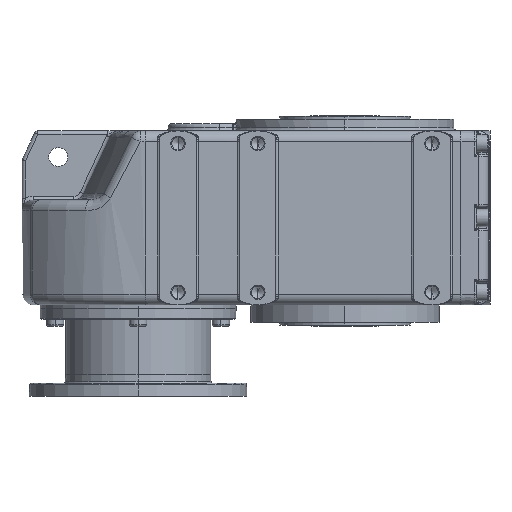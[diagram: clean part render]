
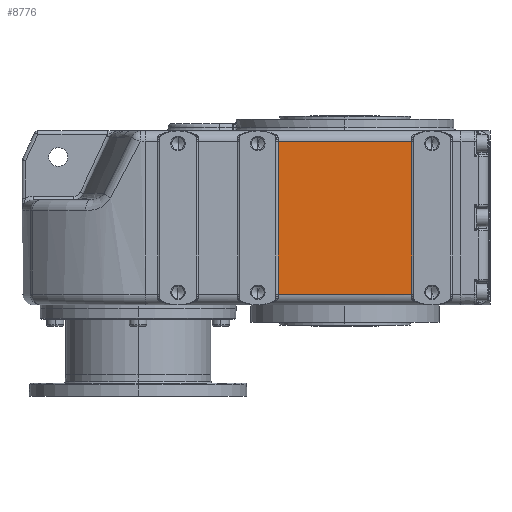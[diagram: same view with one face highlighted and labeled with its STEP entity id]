
A CAD part, left-side view. The second image highlights one B-rep face of the part: STEP entity #8776.
In plain terms, the highlighted planar face has unit normal (-1, 0, 0).
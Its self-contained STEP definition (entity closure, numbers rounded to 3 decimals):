
#8549 = EDGE_CURVE ( 'NONE', #8550, #8551, #103241, .T. ) ;
#8550 = VERTEX_POINT ( 'NONE', #103359 ) ;
#8551 = VERTEX_POINT ( 'NONE', #103358 ) ;
#8609 = VERTEX_POINT ( 'NONE', #104279 ) ;
#8613 = EDGE_CURVE ( 'NONE', #8614, #8609, #104310, .T. ) ;
#8614 = VERTEX_POINT ( 'NONE', #104306 ) ;
#8776 = ADVANCED_FACE ( 'NONE', ( #108231 ), #108230, .F. ) ;
#8778 = EDGE_LOOP ( 'NONE', ( #8780, #8782, #8786, #8788 ) ) ;
#8780 = ORIENTED_EDGE ( 'NONE', *, *, #8613, .T. ) ;
#8782 = ORIENTED_EDGE ( 'NONE', *, *, #8784, .T. ) ;
#8784 = EDGE_CURVE ( 'NONE', #8609, #8550, #108223, .T. ) ;
#8786 = ORIENTED_EDGE ( 'NONE', *, *, #8549, .T. ) ;
#8788 = ORIENTED_EDGE ( 'NONE', *, *, #8816, .T. ) ;
#8816 = EDGE_CURVE ( 'NONE', #8551, #8614, #108630, .T. ) ;
#103241 = LINE ( 'NONE', #103362, #103361 ) ;
#103358 = CARTESIAN_POINT ( 'NONE',  ( -197.5, 92.042, 225. ) ) ;
#103359 = CARTESIAN_POINT ( 'NONE',  ( -197.5, -92.042, 225. ) ) ;
#103360 = DIRECTION ( 'NONE',  ( 0., 1., 0. ) ) ;
#103361 = VECTOR ( 'NONE', #103360, 1000. ) ;
#103362 = CARTESIAN_POINT ( 'NONE',  ( -197.5, 275., 225. ) ) ;
#104279 = CARTESIAN_POINT ( 'NONE',  ( -197.5, -92.042, 15. ) ) ;
#104306 = CARTESIAN_POINT ( 'NONE',  ( -197.5, 92.042, 15. ) ) ;
#104307 = DIRECTION ( 'NONE',  ( 0., -1., 0. ) ) ;
#104308 = VECTOR ( 'NONE', #104307, 1000. ) ;
#104309 = CARTESIAN_POINT ( 'NONE',  ( -197.5, 275., 15. ) ) ;
#104310 = LINE ( 'NONE', #104309, #104308 ) ;
#108216 = DIRECTION ( 'NONE',  ( 0., 0., 1. ) ) ;
#108217 = VECTOR ( 'NONE', #108216, 1000. ) ;
#108218 = CARTESIAN_POINT ( 'NONE',  ( -197.5, -92.042, 240. ) ) ;
#108223 = LINE ( 'NONE', #108218, #108217 ) ;
#108226 = DIRECTION ( 'NONE',  ( 0., 1., 0. ) ) ;
#108227 = DIRECTION ( 'NONE',  ( 1., 0., 0. ) ) ;
#108228 = CARTESIAN_POINT ( 'NONE',  ( -197.5, 275., 240. ) ) ;
#108229 = AXIS2_PLACEMENT_3D ( 'NONE', #108228, #108227, #108226 ) ;
#108230 = PLANE ( 'NONE',  #108229 ) ;
#108231 = FACE_OUTER_BOUND ( 'NONE', #8778, .T. ) ;
#108624 = DIRECTION ( 'NONE',  ( 0., 0., -1. ) ) ;
#108625 = VECTOR ( 'NONE', #108624, 1000. ) ;
#108626 = CARTESIAN_POINT ( 'NONE',  ( -197.5, 92.042, 240. ) ) ;
#108630 = LINE ( 'NONE', #108626, #108625 ) ;
